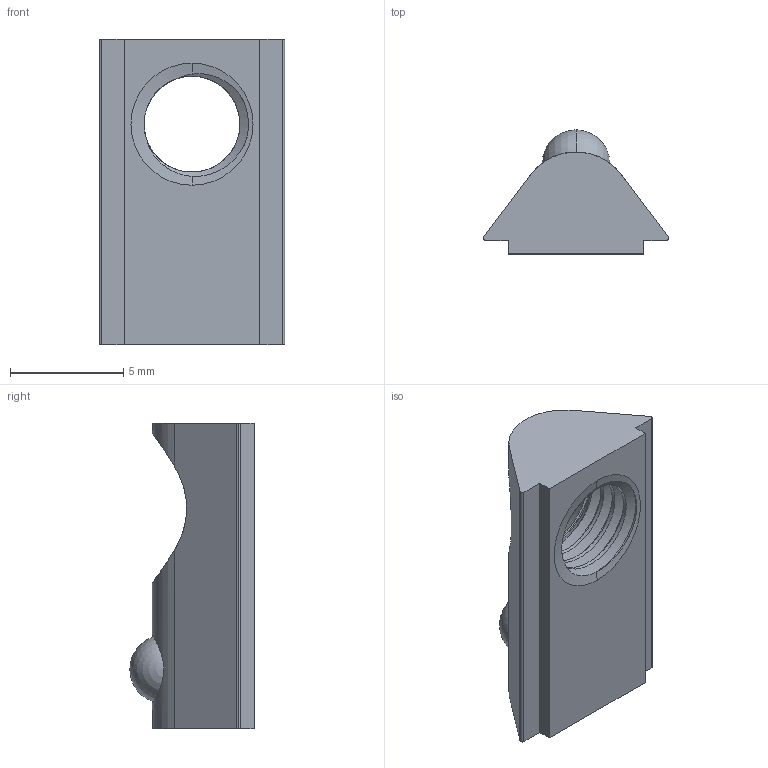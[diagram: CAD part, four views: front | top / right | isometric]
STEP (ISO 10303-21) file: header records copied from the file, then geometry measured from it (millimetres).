
FILE_DESCRIPTION (( 'STEP AP214' ), '1' );
FILE_NAME ('6-4-M4.STEP', '2019-01-13T09:09:41', ( '' ), ( '' ), 'SwSTEP 2.0', 'SolidWorks 2018', '' );
FILE_SCHEMA (( 'AUTOMOTIVE_DESIGN' ));
Length unit declared in the file: millimetre
Products named in the file (3): 6-4-M4; Moer 6-2-M4; Bal 6-2
Assembly tree (2 placements, depth 2):
  6-4-M4
    Moer 6-2-M4
    Bal 6-2
Bounding box: 8.2 x 5.5 x 13.5 mm (x, y, z)
Volume: 254.6 mm3; surface area: 414.3 mm2
Topology: 2 solids, 2 shells, 40 faces, 117 edges, 76 vertices
Faces by surface type: cylinder 17, plane 10, cone 6, sphere 4, bspline 3
Entity records: 2601 total; most frequent: CARTESIAN_POINT 1574, ORIENTED_EDGE 222, DIRECTION 167, EDGE_CURVE 111, VERTEX_POINT 74, AXIS2_PLACEMENT_3D 62, EDGE_LOOP 43, LINE 43
